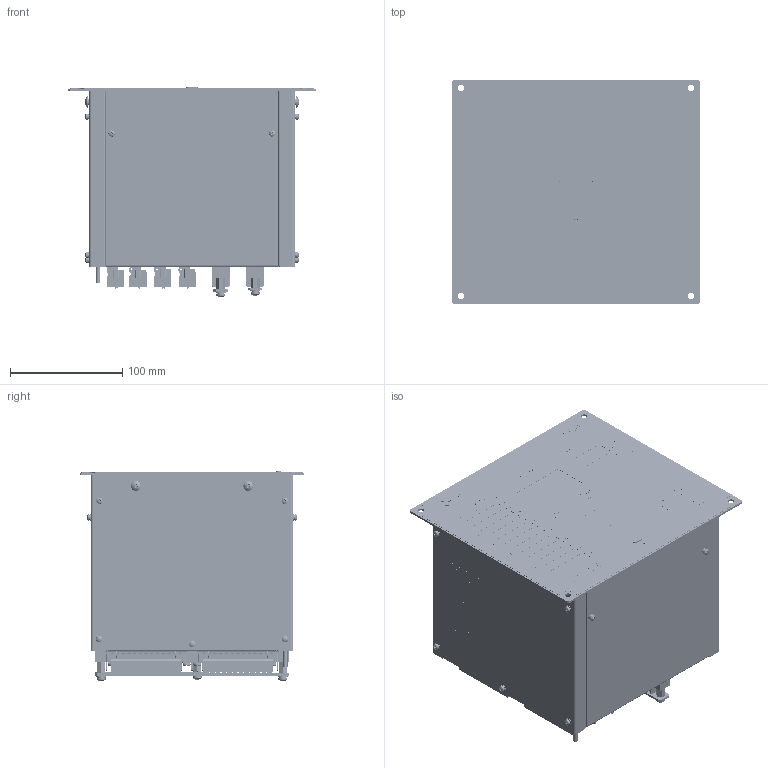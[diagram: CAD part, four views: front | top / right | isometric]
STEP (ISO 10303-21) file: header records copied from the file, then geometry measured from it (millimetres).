
FILE_DESCRIPTION(('STEP AP214'), '1');
FILE_NAME('ﾒﾐﾁﾍ.656122.011-04 - ﾊﾈﾒ-ﾐ-ﾀ', '', ('UNSPECIFIED'), ('UNSPECIFIED'), 'C3D Converter', 'C3D Toolkit', '');
FILE_SCHEMA(('AUTOMOTIVE_DESIGN { 1 0 10303 214 3 1 1}'));
Length unit declared in the file: millimetre
Products named in the file (86): ТРБН.656122.001-04; ТРБН.741128.001; ТРБН.745222.001; ТРБН.301732.001; ТРБН.745422.001; ТРБН.301261.011-04; ТРБН.745512.011-04; ТРБН.434416.011; ТРБН.754342.001; ТРБН.754342.002; ТРБН.434416.012; ТРБН.754342.002-01; ТРБН.434416.013; ТРБН.754342.002-02; ТРБН.434416.014; ТРБН.754342.001-01; ТРБН.754342.002-05; ТРБН.434416.015; ТРБН.754342.002-06; ТРБН.741134.002; ТРБН.754312.001; ТРБН.754342.006; 45H-08P; 45H-08P-01; 691317510004; 6913175100xx_PIN; 6913175100xx_INSERT; 2EDGRHM-5.08-24P-14-00A(H); ТРБН.434416.016; ТРБН.754342.002-07; ТРБН.434416.017; ТРБН.754342.002-08; 691317510012; ТРБН.434416.018; ТРБН.754342.002-03; ТРБН.434416.019; ТРБН.754342.002-04; X1; 615008185121_(rev1); 615008185x21_Housing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
Assembly tree (180 placements, depth 4):
  ТРБН.656122.001-04
    (unnamed)
      ТРБН.741128.001
      ТРБН.745222.001  x2
    ТРБН.301732.001  x2
      ТРБН.745422.001
      (unnamed)
      (unnamed)
    ТРБН.301261.011-04
      ТРБН.745512.011-04
      (unnamed)  x2
      (unnamed)
      (unnamed)
    (unnamed)  x4
    (unnamed)
    (unnamed)
    (unnamed)  x10
    (unnamed)
    (unnamed)  x3
    (unnamed)  x12
    (unnamed)  x2
    (unnamed)  x4
    (unnamed)  x4
    (unnamed)  x4
    ТРБН.434416.011
      (unnamed)
      ТРБН.754342.001
      ТРБН.754342.002
    ТРБН.434416.012
      (unnamed)
      ТРБН.754342.001
      ТРБН.754342.002-01
    ТРБН.434416.013
      (unnamed)
      ТРБН.754342.001
      ТРБН.754342.002-02
    ТРБН.434416.014
      (unnamed)
      ТРБН.754342.001-01
      ТРБН.754342.002-05
    ТРБН.434416.015
      (unnamed)
      ТРБН.754342.001-01
      ТРБН.754342.002-06
    ТРБН.741134.002
    ТРБН.754312.001
    (unnamed)
    (unnamed)
    (unnamed)
    (unnamed)
    ТРБН.754342.006
    (unnamed)
    (unnamed)
    (unnamed)  x10
    (unnamed)  x2
    (unnamed)
    (unnamed)
      45H-08P
      45H-08P-01
    (unnamed)  x4
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Bounding box: 220 x 200 x 187.02 mm (x, y, z)
Volume: 525523.6 mm3; surface area: 702291.1 mm2
Topology: 325 solids, 343 shells, 44327 faces, 124686 edges, 82153 vertices
Faces by surface type: plane 26442, cylinder 13745, extrusion 2847, torus 730, bspline 304, cone 236, sphere 23
Full cylindrical faces by diameter (mm): 0.405 x8, 0.482 x8, 0.804 x1, 1.1 x4, 1.371 x1, 1.6 x8, 1.771 x1, 1.8 x18, 2.459 x6, 2.5 x18, 2.6 x20, 2.75 x36, 3 x14, 3.2 x22, 3.242 x4, 3.3 x84, 3.301 x24, 3.4 x8, 3.5 x86, 3.85 x18, 4 x98, 4.2 x8, 4.22 x6, 4.3 x4, 4.5 x12, 5 x6, 5.6 x18, 5.7 x4, 6 x15, 6.35 x6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
Entity records: 1365071 total; most frequent: CARTESIAN_POINT 274947, ORIENTED_EDGE 181728, DIRECTION 163130, EDGE_CURVE 90864, VECTOR 66320, LINE 63473, VERTEX_POINT 60331, AXIS2_PLACEMENT_3D 48405
